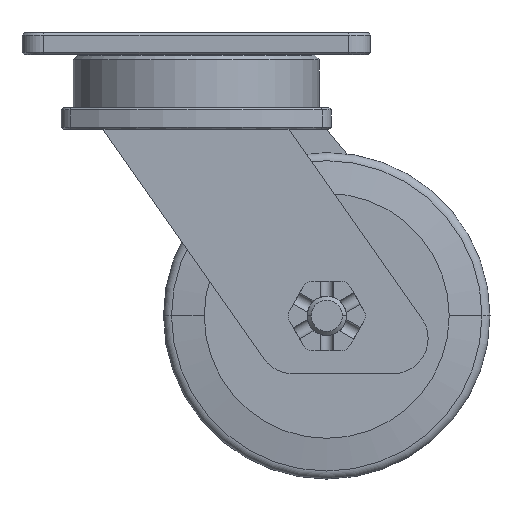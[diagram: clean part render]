
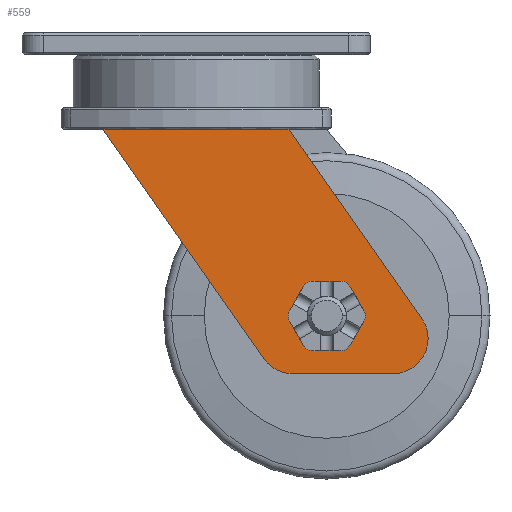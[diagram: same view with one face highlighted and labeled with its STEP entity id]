
A CAD part, front view. The second image highlights one B-rep face of the part: STEP entity #559.
In plain terms, the highlighted planar face has unit normal (0, -1, 0).
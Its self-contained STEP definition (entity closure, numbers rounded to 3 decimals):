
#559=ADVANCED_FACE('',(#2553,#2554),#956,.F.);
#956=PLANE('',#7311);
#1250=CIRCLE('',#7302,16.);
#1251=CIRCLE('',#7303,16.);
#1252=CIRCLE('',#7304,16.);
#1253=CIRCLE('',#7305,5.);
#1254=CIRCLE('',#7306,5.);
#1255=CIRCLE('',#7307,5.);
#1256=CIRCLE('',#7308,5.);
#1257=CIRCLE('',#7309,5.);
#1258=CIRCLE('',#7310,5.);
#1533=LINE('',#10521,#2049);
#1534=LINE('',#10524,#2050);
#1535=LINE('',#10526,#2051);
#1536=LINE('',#10530,#2052);
#1537=LINE('',#10536,#2053);
#1538=LINE('',#10538,#2054);
#1539=LINE('',#10539,#2055);
#1540=LINE('',#10544,#2056);
#1541=LINE('',#10548,#2057);
#1542=LINE('',#10552,#2058);
#1543=LINE('',#10556,#2059);
#1544=LINE('',#10560,#2060);
#2049=VECTOR('',#8071,1.);
#2050=VECTOR('',#8072,1.);
#2051=VECTOR('',#8073,1.);
#2052=VECTOR('',#8076,1.);
#2053=VECTOR('',#8081,1.);
#2054=VECTOR('',#8082,1.);
#2055=VECTOR('',#8083,1.);
#2056=VECTOR('',#8086,1.);
#2057=VECTOR('',#8089,1.);
#2058=VECTOR('',#8092,1.);
#2059=VECTOR('',#8095,1.);
#2060=VECTOR('',#8098,1.);
#2553=FACE_BOUND('',#2630,.T.);
#2554=FACE_BOUND('',#2631,.T.);
#2630=EDGE_LOOP('',(#3233,#3234,#3235,#3236,#3237,#3238,#3239,#3240,#3241));
#2631=EDGE_LOOP('',(#3242,#3243,#3244,#3245,#3246,#3247,#3248,#3249,#3250,
#3251,#3252,#3253));
#3233=ORIENTED_EDGE('',*,*,#6088,.F.);
#3234=ORIENTED_EDGE('',*,*,#6089,.T.);
#3235=ORIENTED_EDGE('',*,*,#6090,.F.);
#3236=ORIENTED_EDGE('',*,*,#6091,.F.);
#3237=ORIENTED_EDGE('',*,*,#6092,.T.);
#3238=ORIENTED_EDGE('',*,*,#6093,.F.);
#3239=ORIENTED_EDGE('',*,*,#6094,.F.);
#3240=ORIENTED_EDGE('',*,*,#6095,.F.);
#3241=ORIENTED_EDGE('',*,*,#6096,.T.);
#3242=ORIENTED_EDGE('',*,*,#6097,.F.);
#3243=ORIENTED_EDGE('',*,*,#6098,.F.);
#3244=ORIENTED_EDGE('',*,*,#6099,.F.);
#3245=ORIENTED_EDGE('',*,*,#6100,.F.);
#3246=ORIENTED_EDGE('',*,*,#6101,.F.);
#3247=ORIENTED_EDGE('',*,*,#6102,.F.);
#3248=ORIENTED_EDGE('',*,*,#6103,.F.);
#3249=ORIENTED_EDGE('',*,*,#6104,.F.);
#3250=ORIENTED_EDGE('',*,*,#6105,.F.);
#3251=ORIENTED_EDGE('',*,*,#6106,.F.);
#3252=ORIENTED_EDGE('',*,*,#6107,.F.);
#3253=ORIENTED_EDGE('',*,*,#6108,.F.);
#5375=VERTEX_POINT('',#10522);
#5376=VERTEX_POINT('',#10523);
#5377=VERTEX_POINT('',#10525);
#5378=VERTEX_POINT('',#10527);
#5379=VERTEX_POINT('',#10529);
#5380=VERTEX_POINT('',#10531);
#5381=VERTEX_POINT('',#10533);
#5382=VERTEX_POINT('',#10535);
#5383=VERTEX_POINT('',#10537);
#5384=VERTEX_POINT('',#10540);
#5385=VERTEX_POINT('',#10541);
#5386=VERTEX_POINT('',#10543);
#5387=VERTEX_POINT('',#10545);
#5388=VERTEX_POINT('',#10547);
#5389=VERTEX_POINT('',#10549);
#5390=VERTEX_POINT('',#10551);
#5391=VERTEX_POINT('',#10553);
#5392=VERTEX_POINT('',#10555);
#5393=VERTEX_POINT('',#10557);
#5394=VERTEX_POINT('',#10559);
#5395=VERTEX_POINT('',#10561);
#6088=EDGE_CURVE('',#5375,#5376,#1533,.T.);
#6089=EDGE_CURVE('',#5375,#5377,#1534,.T.);
#6090=EDGE_CURVE('',#5378,#5377,#1535,.T.);
#6091=EDGE_CURVE('',#5379,#5378,#1250,.T.);
#6092=EDGE_CURVE('',#5379,#5380,#1536,.T.);
#6093=EDGE_CURVE('',#5381,#5380,#1251,.T.);
#6094=EDGE_CURVE('',#5382,#5381,#1252,.T.);
#6095=EDGE_CURVE('',#5383,#5382,#1537,.T.);
#6096=EDGE_CURVE('',#5383,#5376,#1538,.T.);
#6097=EDGE_CURVE('',#5384,#5385,#1539,.T.);
#6098=EDGE_CURVE('',#5386,#5384,#1253,.T.);
#6099=EDGE_CURVE('',#5387,#5386,#1540,.T.);
#6100=EDGE_CURVE('',#5388,#5387,#1254,.T.);
#6101=EDGE_CURVE('',#5389,#5388,#1541,.T.);
#6102=EDGE_CURVE('',#5390,#5389,#1255,.T.);
#6103=EDGE_CURVE('',#5391,#5390,#1542,.T.);
#6104=EDGE_CURVE('',#5392,#5391,#1256,.T.);
#6105=EDGE_CURVE('',#5393,#5392,#1543,.T.);
#6106=EDGE_CURVE('',#5394,#5393,#1257,.T.);
#6107=EDGE_CURVE('',#5395,#5394,#1544,.T.);
#6108=EDGE_CURVE('',#5385,#5395,#1258,.T.);
#7302=AXIS2_PLACEMENT_3D('',#10528,#8074,#8075);
#7303=AXIS2_PLACEMENT_3D('',#10532,#8077,#8078);
#7304=AXIS2_PLACEMENT_3D('',#10534,#8079,#8080);
#7305=AXIS2_PLACEMENT_3D('',#10542,#8084,#8085);
#7306=AXIS2_PLACEMENT_3D('',#10546,#8087,#8088);
#7307=AXIS2_PLACEMENT_3D('',#10550,#8090,#8091);
#7308=AXIS2_PLACEMENT_3D('',#10554,#8093,#8094);
#7309=AXIS2_PLACEMENT_3D('',#10558,#8096,#8097);
#7310=AXIS2_PLACEMENT_3D('',#10562,#8099,#8100);
#7311=AXIS2_PLACEMENT_3D('',#10563,#8101,#8102);
#8071=DIRECTION('',(1.,0.,0.));
#8072=DIRECTION('',(-1.,0.,0.));
#8073=DIRECTION('',(-0.574,0.,0.819));
#8074=DIRECTION('',(0.,1.,0.));
#8075=DIRECTION('',(0.,0.,-1.));
#8076=DIRECTION('',(1.,0.,0.));
#8077=DIRECTION('',(0.,1.,0.));
#8078=DIRECTION('',(1.,0.,0.));
#8079=DIRECTION('',(0.,1.,0.));
#8080=DIRECTION('',(0.819,0.,0.574));
#8081=DIRECTION('',(0.574,0.,-0.819));
#8082=DIRECTION('',(-1.,0.,0.));
#8083=DIRECTION('',(-0.5,0.,0.866));
#8084=DIRECTION('',(0.,-1.,0.));
#8085=DIRECTION('',(0.866,0.,-0.5));
#8086=DIRECTION('',(0.5,0.,0.866));
#8087=DIRECTION('',(0.,-1.,0.));
#8088=DIRECTION('',(0.,0.,-1.));
#8089=DIRECTION('',(1.,0.,0.));
#8090=DIRECTION('',(0.,-1.,0.));
#8091=DIRECTION('',(-0.866,0.,-0.5));
#8092=DIRECTION('',(0.5,0.,-0.866));
#8093=DIRECTION('',(0.,-1.,0.));
#8094=DIRECTION('',(-0.866,0.,0.5));
#8095=DIRECTION('',(-0.5,0.,-0.866));
#8096=DIRECTION('',(0.,-1.,0.));
#8097=DIRECTION('',(0.,0.,1.));
#8098=DIRECTION('',(-1.,0.,0.));
#8099=DIRECTION('',(0.,-1.,0.));
#8100=DIRECTION('',(0.866,0.,0.5));
#8101=DIRECTION('',(0.,1.,0.));
#8102=DIRECTION('',(-1.,0.,0.));
#10521=CARTESIAN_POINT('',(-37.4,-89.5,-44.364));
#10522=CARTESIAN_POINT('',(-37.4,-89.5,-44.364));
#10523=CARTESIAN_POINT('',(37.4,-89.5,-44.364));
#10524=CARTESIAN_POINT('',(-37.4,-89.5,-44.364));
#10525=CARTESIAN_POINT('',(-42.853,-89.5,-44.364));
#10526=CARTESIAN_POINT('',(31.06,-89.5,-149.691));
#10527=CARTESIAN_POINT('',(31.06,-89.5,-149.691));
#10528=CARTESIAN_POINT('',(44.157,-89.5,-140.5));
#10529=CARTESIAN_POINT('',(44.157,-89.5,-156.5));
#10530=CARTESIAN_POINT('',(44.157,-89.5,-156.5));
#10531=CARTESIAN_POINT('',(90.58,-89.5,-156.5));
#10532=CARTESIAN_POINT('',(90.58,-89.5,-140.5));
#10533=CARTESIAN_POINT('',(106.58,-89.5,-140.5));
#10534=CARTESIAN_POINT('',(90.58,-89.5,-140.5));
#10535=CARTESIAN_POINT('',(103.677,-89.5,-131.309));
#10536=CARTESIAN_POINT('',(42.663,-89.5,-44.364));
#10537=CARTESIAN_POINT('',(42.663,-89.5,-44.364));
#10538=CARTESIAN_POINT('',(42.663,-89.5,-44.364));
#10539=CARTESIAN_POINT('',(77.032,-89.5,-127.5));
#10540=CARTESIAN_POINT('',(77.032,-89.5,-127.5));
#10541=CARTESIAN_POINT('',(70.681,-89.5,-116.5));
#10542=CARTESIAN_POINT('',(72.702,-89.5,-130.));
#10543=CARTESIAN_POINT('',(77.032,-89.5,-132.5));
#10544=CARTESIAN_POINT('',(70.681,-89.5,-143.5));
#10545=CARTESIAN_POINT('',(70.681,-89.5,-143.5));
#10546=CARTESIAN_POINT('',(66.351,-89.5,-141.));
#10547=CARTESIAN_POINT('',(66.351,-89.5,-146.));
#10548=CARTESIAN_POINT('',(53.649,-89.5,-146.));
#10549=CARTESIAN_POINT('',(53.649,-89.5,-146.));
#10550=CARTESIAN_POINT('',(53.649,-89.5,-141.));
#10551=CARTESIAN_POINT('',(49.319,-89.5,-143.5));
#10552=CARTESIAN_POINT('',(42.968,-89.5,-132.5));
#10553=CARTESIAN_POINT('',(42.968,-89.5,-132.5));
#10554=CARTESIAN_POINT('',(47.298,-89.5,-130.));
#10555=CARTESIAN_POINT('',(42.968,-89.5,-127.5));
#10556=CARTESIAN_POINT('',(49.319,-89.5,-116.5));
#10557=CARTESIAN_POINT('',(49.319,-89.5,-116.5));
#10558=CARTESIAN_POINT('',(53.649,-89.5,-119.));
#10559=CARTESIAN_POINT('',(53.649,-89.5,-114.));
#10560=CARTESIAN_POINT('',(66.351,-89.5,-114.));
#10561=CARTESIAN_POINT('',(66.351,-89.5,-114.));
#10562=CARTESIAN_POINT('',(66.351,-89.5,-119.));
#10563=CARTESIAN_POINT('',(0.,-89.5,0.));
